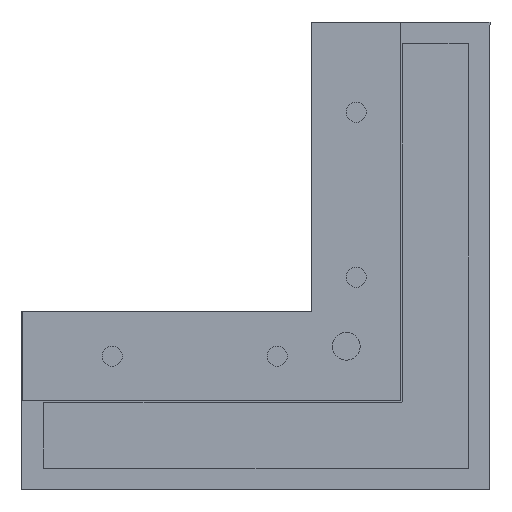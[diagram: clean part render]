
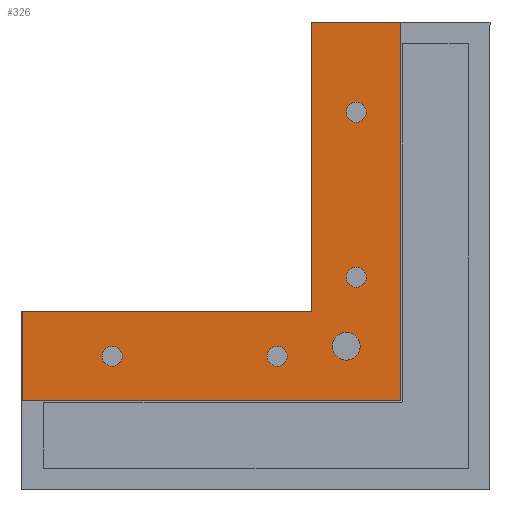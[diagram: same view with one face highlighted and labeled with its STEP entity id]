
A CAD part, front view. The second image highlights one B-rep face of the part: STEP entity #326.
In plain terms, the highlighted planar face has unit normal (0, -1, 0).
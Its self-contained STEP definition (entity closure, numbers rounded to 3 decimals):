
#1 = ORIENTED_EDGE ( 'NONE', *, *, #944, .F. ) ;
#8 = LINE ( 'NONE', #466, #240 ) ;
#14 = AXIS2_PLACEMENT_3D ( 'NONE', #304, #951, #849 ) ;
#23 = ORIENTED_EDGE ( 'NONE', *, *, #1058, .F. ) ;
#30 = AXIS2_PLACEMENT_3D ( 'NONE', #1042, #890, #1063 ) ;
#33 = CIRCLE ( 'NONE', #388, 4.5 ) ;
#40 = FACE_BOUND ( 'NONE', #95, .T. ) ;
#45 = CARTESIAN_POINT ( 'NONE',  ( 80., -250., 150. ) ) ;
#48 = CARTESIAN_POINT ( 'NONE',  ( 55.5, -250., 10.75 ) ) ;
#51 = PLANE ( 'NONE',  #816 ) ;
#63 = EDGE_CURVE ( 'NONE', #1150, #792, #364, .T. ) ;
#75 = DIRECTION ( 'NONE',  ( 0., 0., -1. ) ) ;
#90 = AXIS2_PLACEMENT_3D ( 'NONE', #457, #447, #278 ) ;
#95 = EDGE_LOOP ( 'NONE', ( #1111, #493 ) ) ;
#109 = CIRCLE ( 'NONE', #764, 4.5 ) ;
#135 = VERTEX_POINT ( 'NONE', #553 ) ;
#136 = CARTESIAN_POINT ( 'NONE',  ( 24.5, -250., 0. ) ) ;
#145 = EDGE_CURVE ( 'NONE', #692, #904, #916, .T. ) ;
#147 = VECTOR ( 'NONE', #359, 1000. ) ;
#149 = FACE_BOUND ( 'NONE', #700, .T. ) ;
#154 = LINE ( 'NONE', #770, #763 ) ;
#161 = ORIENTED_EDGE ( 'NONE', *, *, #1064, .F. ) ;
#167 = EDGE_LOOP ( 'NONE', ( #161, #1 ) ) ;
#189 = CARTESIAN_POINT ( 'NONE',  ( 60., -250., 109.5 ) ) ;
#194 = DIRECTION ( 'NONE',  ( 0., -1., 0. ) ) ;
#195 = EDGE_CURVE ( 'NONE', #379, #392, #1043, .T. ) ;
#208 = EDGE_CURVE ( 'NONE', #981, #1093, #480, .T. ) ;
#220 = AXIS2_PLACEMENT_3D ( 'NONE', #189, #194, #634 ) ;
#224 = EDGE_CURVE ( 'NONE', #904, #135, #8, .T. ) ;
#227 = CARTESIAN_POINT ( 'NONE',  ( 24.5, -250., -4.5 ) ) ;
#233 = FACE_BOUND ( 'NONE', #1016, .T. ) ;
#235 = VERTEX_POINT ( 'NONE', #1037 ) ;
#240 = VECTOR ( 'NONE', #288, 1000. ) ;
#246 = CARTESIAN_POINT ( 'NONE',  ( -49.5, -250., 0. ) ) ;
#262 = LINE ( 'NONE', #775, #1162 ) ;
#278 = DIRECTION ( 'NONE',  ( 0., 0., -1. ) ) ;
#281 = ORIENTED_EDGE ( 'NONE', *, *, #208, .F. ) ;
#288 = DIRECTION ( 'NONE',  ( 1., 0., 0. ) ) ;
#291 = EDGE_CURVE ( 'NONE', #135, #235, #492, .T. ) ;
#302 = DIRECTION ( 'NONE',  ( 0., -1., 0. ) ) ;
#304 = CARTESIAN_POINT ( 'NONE',  ( 55.5, -250., 4.5 ) ) ;
#319 = DIRECTION ( 'NONE',  ( 0., 1., 0. ) ) ;
#326 = ADVANCED_FACE ( 'NONE', ( #40, #947, #233, #149, #497, #1120 ), #51, .F. ) ;
#340 = CARTESIAN_POINT ( 'NONE',  ( -90., -250., 20. ) ) ;
#351 = ORIENTED_EDGE ( 'NONE', *, *, #543, .F. ) ;
#356 = VERTEX_POINT ( 'NONE', #927 ) ;
#359 = DIRECTION ( 'NONE',  ( 0., 0., -1. ) ) ;
#361 = ORIENTED_EDGE ( 'NONE', *, *, #195, .F. ) ;
#364 = CIRCLE ( 'NONE', #721, 4.5 ) ;
#379 = VERTEX_POINT ( 'NONE', #1033 ) ;
#388 = AXIS2_PLACEMENT_3D ( 'NONE', #136, #302, #1030 ) ;
#392 = VERTEX_POINT ( 'NONE', #603 ) ;
#393 = DIRECTION ( 'NONE',  ( 0., 0., -1. ) ) ;
#400 = EDGE_CURVE ( 'NONE', #629, #356, #1005, .T. ) ;
#434 = EDGE_CURVE ( 'NONE', #356, #629, #835, .T. ) ;
#447 = DIRECTION ( 'NONE',  ( 0., -1., 0. ) ) ;
#451 = ORIENTED_EDGE ( 'NONE', *, *, #224, .T. ) ;
#457 = CARTESIAN_POINT ( 'NONE',  ( 60., -250., 35.5 ) ) ;
#466 = CARTESIAN_POINT ( 'NONE',  ( -90., -250., -20. ) ) ;
#477 = EDGE_CURVE ( 'NONE', #235, #939, #262, .T. ) ;
#479 = ORIENTED_EDGE ( 'NONE', *, *, #958, .T. ) ;
#480 = CIRCLE ( 'NONE', #741, 6.25 ) ;
#482 = AXIS2_PLACEMENT_3D ( 'NONE', #511, #957, #75 ) ;
#492 = LINE ( 'NONE', #45, #1119 ) ;
#493 = ORIENTED_EDGE ( 'NONE', *, *, #434, .F. ) ;
#497 = FACE_BOUND ( 'NONE', #1133, .T. ) ;
#502 = CARTESIAN_POINT ( 'NONE',  ( 40., -250., 20. ) ) ;
#511 = CARTESIAN_POINT ( 'NONE',  ( 24.5, -250., 0. ) ) ;
#515 = EDGE_CURVE ( 'NONE', #909, #692, #599, .T. ) ;
#528 = ORIENTED_EDGE ( 'NONE', *, *, #63, .F. ) ;
#543 = EDGE_CURVE ( 'NONE', #792, #1150, #1141, .T. ) ;
#553 = CARTESIAN_POINT ( 'NONE',  ( 80., -250., -20. ) ) ;
#571 = DIRECTION ( 'NONE',  ( 0., 0., 1. ) ) ;
#599 = LINE ( 'NONE', #340, #653 ) ;
#603 = CARTESIAN_POINT ( 'NONE',  ( 60., -250., 114. ) ) ;
#614 = CARTESIAN_POINT ( 'NONE',  ( 55.5, -250., -1.75 ) ) ;
#622 = DIRECTION ( 'NONE',  ( 0., 0., -1. ) ) ;
#627 = CARTESIAN_POINT ( 'NONE',  ( -90., -250., -20. ) ) ;
#629 = VERTEX_POINT ( 'NONE', #722 ) ;
#634 = DIRECTION ( 'NONE',  ( 0., 0., -1. ) ) ;
#653 = VECTOR ( 'NONE', #682, 1000. ) ;
#656 = DIRECTION ( 'NONE',  ( 0., 0., 1. ) ) ;
#681 = CARTESIAN_POINT ( 'NONE',  ( 24.5, -250., 4.5 ) ) ;
#682 = DIRECTION ( 'NONE',  ( -1., 0., 0. ) ) ;
#686 = CARTESIAN_POINT ( 'NONE',  ( 60., -250., 40. ) ) ;
#692 = VERTEX_POINT ( 'NONE', #822 ) ;
#700 = EDGE_LOOP ( 'NONE', ( #361, #23 ) ) ;
#709 = DIRECTION ( 'NONE',  ( 0., -1., 0. ) ) ;
#721 = AXIS2_PLACEMENT_3D ( 'NONE', #1158, #709, #622 ) ;
#722 = CARTESIAN_POINT ( 'NONE',  ( -49.5, -250., -4.5 ) ) ;
#724 = CIRCLE ( 'NONE', #14, 6.25 ) ;
#740 = DIRECTION ( 'NONE',  ( 0., -1., 0. ) ) ;
#741 = AXIS2_PLACEMENT_3D ( 'NONE', #810, #740, #1096 ) ;
#762 = CARTESIAN_POINT ( 'NONE',  ( 60., -250., 109.5 ) ) ;
#763 = VECTOR ( 'NONE', #1132, 1000. ) ;
#764 = AXIS2_PLACEMENT_3D ( 'NONE', #762, #840, #393 ) ;
#770 = CARTESIAN_POINT ( 'NONE',  ( 40., -250., 20. ) ) ;
#774 = CARTESIAN_POINT ( 'NONE',  ( 40., -250., 150. ) ) ;
#775 = CARTESIAN_POINT ( 'NONE',  ( 40., -250., 150. ) ) ;
#784 = ORIENTED_EDGE ( 'NONE', *, *, #145, .T. ) ;
#792 = VERTEX_POINT ( 'NONE', #827 ) ;
#810 = CARTESIAN_POINT ( 'NONE',  ( 55.5, -250., 4.5 ) ) ;
#813 = EDGE_CURVE ( 'NONE', #1093, #981, #724, .T. ) ;
#816 = AXIS2_PLACEMENT_3D ( 'NONE', #867, #319, #656 ) ;
#822 = CARTESIAN_POINT ( 'NONE',  ( -90., -250., 20. ) ) ;
#826 = ORIENTED_EDGE ( 'NONE', *, *, #515, .T. ) ;
#827 = CARTESIAN_POINT ( 'NONE',  ( 60., -250., 31. ) ) ;
#833 = ORIENTED_EDGE ( 'NONE', *, *, #477, .T. ) ;
#835 = CIRCLE ( 'NONE', #972, 4.5 ) ;
#840 = DIRECTION ( 'NONE',  ( 0., -1., 0. ) ) ;
#849 = DIRECTION ( 'NONE',  ( 0., 0., -1. ) ) ;
#867 = CARTESIAN_POINT ( 'NONE',  ( 0., -250., 0. ) ) ;
#876 = CARTESIAN_POINT ( 'NONE',  ( -90., -250., -20. ) ) ;
#885 = DIRECTION ( 'NONE',  ( 0., -1., 0. ) ) ;
#890 = DIRECTION ( 'NONE',  ( 0., -1., 0. ) ) ;
#904 = VERTEX_POINT ( 'NONE', #876 ) ;
#909 = VERTEX_POINT ( 'NONE', #502 ) ;
#916 = LINE ( 'NONE', #627, #147 ) ;
#927 = CARTESIAN_POINT ( 'NONE',  ( -49.5, -250., 4.5 ) ) ;
#939 = VERTEX_POINT ( 'NONE', #774 ) ;
#944 = EDGE_CURVE ( 'NONE', #964, #1022, #1069, .T. ) ;
#947 = FACE_BOUND ( 'NONE', #167, .T. ) ;
#951 = DIRECTION ( 'NONE',  ( 0., -1., 0. ) ) ;
#957 = DIRECTION ( 'NONE',  ( 0., -1., 0. ) ) ;
#958 = EDGE_CURVE ( 'NONE', #939, #909, #154, .T. ) ;
#962 = DIRECTION ( 'NONE',  ( 0., 0., -1. ) ) ;
#963 = EDGE_LOOP ( 'NONE', ( #784, #451, #1129, #833, #479, #826 ) ) ;
#964 = VERTEX_POINT ( 'NONE', #681 ) ;
#972 = AXIS2_PLACEMENT_3D ( 'NONE', #246, #885, #962 ) ;
#981 = VERTEX_POINT ( 'NONE', #614 ) ;
#1005 = CIRCLE ( 'NONE', #30, 4.5 ) ;
#1016 = EDGE_LOOP ( 'NONE', ( #281, #1116 ) ) ;
#1022 = VERTEX_POINT ( 'NONE', #227 ) ;
#1030 = DIRECTION ( 'NONE',  ( 0., 0., -1. ) ) ;
#1033 = CARTESIAN_POINT ( 'NONE',  ( 60., -250., 105. ) ) ;
#1037 = CARTESIAN_POINT ( 'NONE',  ( 80., -250., 150. ) ) ;
#1042 = CARTESIAN_POINT ( 'NONE',  ( -49.5, -250., 0. ) ) ;
#1043 = CIRCLE ( 'NONE', #220, 4.5 ) ;
#1058 = EDGE_CURVE ( 'NONE', #392, #379, #109, .T. ) ;
#1059 = DIRECTION ( 'NONE',  ( -1., 0., 0. ) ) ;
#1063 = DIRECTION ( 'NONE',  ( 0., 0., -1. ) ) ;
#1064 = EDGE_CURVE ( 'NONE', #1022, #964, #33, .T. ) ;
#1069 = CIRCLE ( 'NONE', #482, 4.5 ) ;
#1093 = VERTEX_POINT ( 'NONE', #48 ) ;
#1096 = DIRECTION ( 'NONE',  ( 0., 0., -1. ) ) ;
#1111 = ORIENTED_EDGE ( 'NONE', *, *, #400, .F. ) ;
#1116 = ORIENTED_EDGE ( 'NONE', *, *, #813, .F. ) ;
#1119 = VECTOR ( 'NONE', #571, 1000. ) ;
#1120 = FACE_OUTER_BOUND ( 'NONE', #963, .T. ) ;
#1129 = ORIENTED_EDGE ( 'NONE', *, *, #291, .T. ) ;
#1132 = DIRECTION ( 'NONE',  ( 0., 0., -1. ) ) ;
#1133 = EDGE_LOOP ( 'NONE', ( #351, #528 ) ) ;
#1141 = CIRCLE ( 'NONE', #90, 4.5 ) ;
#1150 = VERTEX_POINT ( 'NONE', #686 ) ;
#1158 = CARTESIAN_POINT ( 'NONE',  ( 60., -250., 35.5 ) ) ;
#1162 = VECTOR ( 'NONE', #1059, 1000. ) ;
